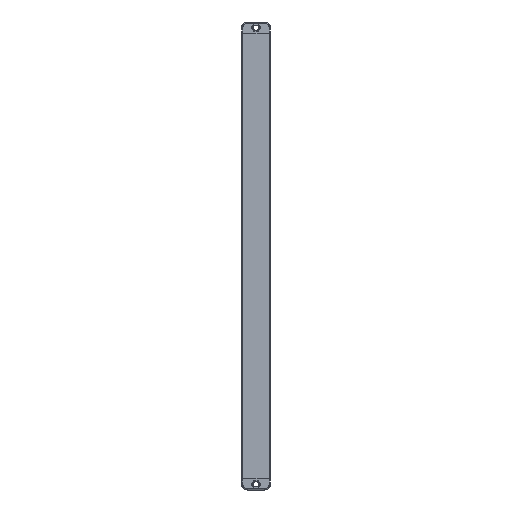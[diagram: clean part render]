
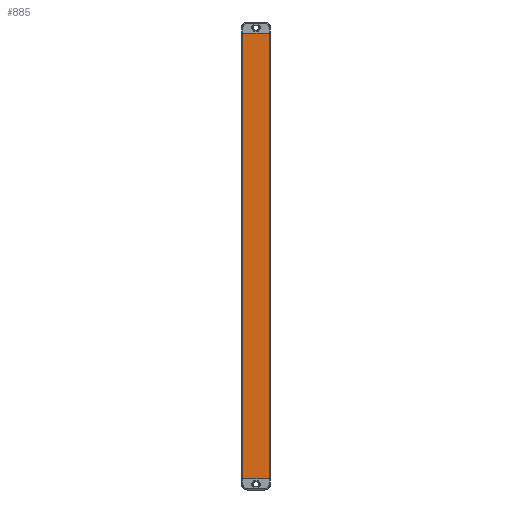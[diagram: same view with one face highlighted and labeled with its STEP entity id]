
A CAD part, front view. The second image highlights one B-rep face of the part: STEP entity #885.
In plain terms, the highlighted planar face has unit normal (0, -1, 0).
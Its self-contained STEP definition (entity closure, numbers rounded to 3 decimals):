
#622 = EDGE_CURVE ( 'NONE', #10581, #2091, #768, .T. ) ;
#768 = LINE ( 'NONE', #4317, #5203 ) ;
#885 = ADVANCED_FACE ( 'NONE', ( #6376 ), #9903, .F. ) ;
#1663 = ORIENTED_EDGE ( 'NONE', *, *, #2913, .T. ) ;
#1724 = VERTEX_POINT ( 'NONE', #5125 ) ;
#1851 = VECTOR ( 'NONE', #2671, 1000. ) ;
#1946 = CARTESIAN_POINT ( 'NONE',  ( -0.005, -6., 390. ) ) ;
#2091 = VERTEX_POINT ( 'NONE', #5805 ) ;
#2132 = CARTESIAN_POINT ( 'NONE',  ( -11.5, -6., 390. ) ) ;
#2529 = ORIENTED_EDGE ( 'NONE', *, *, #9962, .F. ) ;
#2671 = DIRECTION ( 'NONE',  ( 0., 0., -1. ) ) ;
#2739 = AXIS2_PLACEMENT_3D ( 'NONE', #1946, #5490, #9029 ) ;
#2913 = EDGE_CURVE ( 'NONE', #1724, #10581, #10093, .T. ) ;
#3021 = VECTOR ( 'NONE', #6607, 1000. ) ;
#3068 = CARTESIAN_POINT ( 'NONE',  ( -11.5, -6., 390. ) ) ;
#3415 = ORIENTED_EDGE ( 'NONE', *, *, #3784, .F. ) ;
#3784 = EDGE_CURVE ( 'NONE', #10326, #2091, #7086, .T. ) ;
#4284 = ORIENTED_EDGE ( 'NONE', *, *, #622, .T. ) ;
#4317 = CARTESIAN_POINT ( 'NONE',  ( -0.005, -6., 0. ) ) ;
#5125 = CARTESIAN_POINT ( 'NONE',  ( -11.5, -6., 390. ) ) ;
#5203 = VECTOR ( 'NONE', #7855, 1000. ) ;
#5490 = DIRECTION ( 'NONE',  ( 0., 1., 0. ) ) ;
#5676 = DIRECTION ( 'NONE',  ( 0., 0., -1. ) ) ;
#5805 = CARTESIAN_POINT ( 'NONE',  ( 11.5, -6., 0. ) ) ;
#6016 = CARTESIAN_POINT ( 'NONE',  ( 11.5, -6., 390. ) ) ;
#6376 = FACE_OUTER_BOUND ( 'NONE', #10766, .T. ) ;
#6420 = CARTESIAN_POINT ( 'NONE',  ( -11.5, -6., 0. ) ) ;
#6607 = DIRECTION ( 'NONE',  ( 1., 0., 0. ) ) ;
#7086 = LINE ( 'NONE', #10625, #1851 ) ;
#7575 = VECTOR ( 'NONE', #5676, 1000. ) ;
#7855 = DIRECTION ( 'NONE',  ( 1., 0., 0. ) ) ;
#9029 = DIRECTION ( 'NONE',  ( 0., 0., 1. ) ) ;
#9903 = PLANE ( 'NONE',  #2739 ) ;
#9962 = EDGE_CURVE ( 'NONE', #1724, #10326, #11014, .T. ) ;
#10093 = LINE ( 'NONE', #2132, #7575 ) ;
#10326 = VERTEX_POINT ( 'NONE', #6016 ) ;
#10581 = VERTEX_POINT ( 'NONE', #6420 ) ;
#10625 = CARTESIAN_POINT ( 'NONE',  ( 11.5, -6., 390. ) ) ;
#10766 = EDGE_LOOP ( 'NONE', ( #4284, #3415, #2529, #1663 ) ) ;
#11014 = LINE ( 'NONE', #3068, #3021 ) ;
